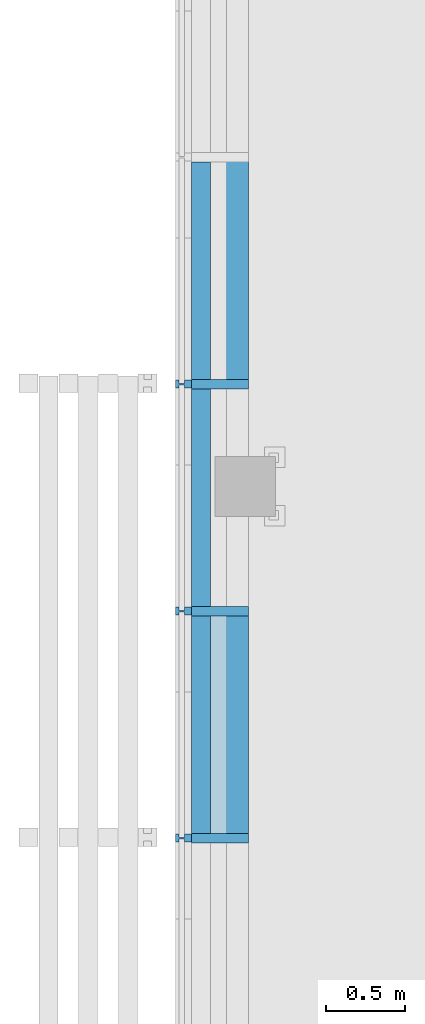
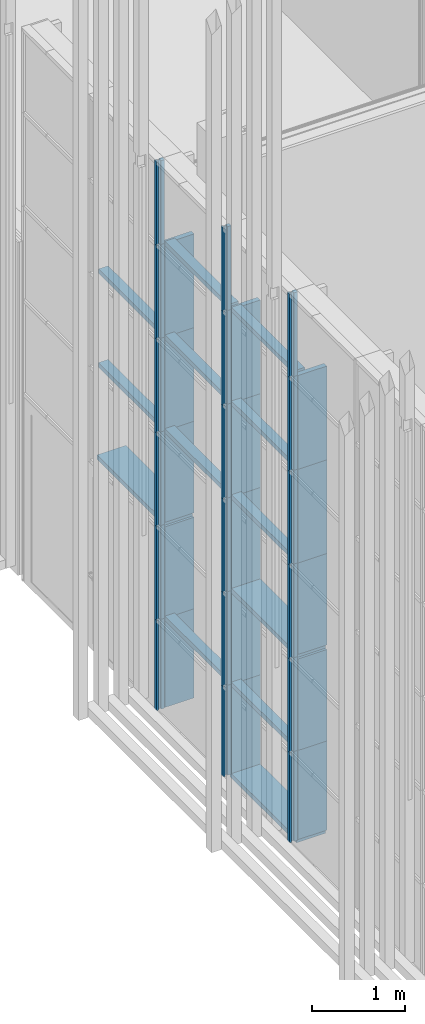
# One storey, part 23 of 260: 46 members, 2 elements without a shape of their own.
"""IFC2X3 building model written with IfcOpenShell, lengths in millimetres."""

from ifc_helpers import new_model, entity, si_unit, converted_unit, derived_unit, money_unit, direction, frame, origin_with_axes, place, context, subcontext, project, spatial, faceted_brep, source, transform, mapped, material, type_object, element, aggregate, save


model = new_model("IFC2X3")

# Units and contexts
model_context = context("Model", 3, precision=0.01, world=origin_with_axes(), true_north=direction((0.0, 1.0)))
body_context = subcontext(model_context, "Body", "Model", "MODEL_VIEW")
ifc_project = project(units=[si_unit("LENGTHUNIT", "METRE", prefix="MILLI"), si_unit("AREAUNIT", "SQUARE_METRE"), si_unit("VOLUMEUNIT", "CUBIC_METRE"), converted_unit("PLANEANGLEUNIT", "DEGREE", entity("IfcPlaneAngleMeasure", 0.0174532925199), si_unit("PLANEANGLEUNIT", "RADIAN"), dimensions=[0, 0, 0, 0, 0, 0, 0]), money_unit("EUR"), converted_unit("TIMEUNIT", "Year", entity("IfcTimeMeasure", 31556926.0), si_unit("TIMEUNIT", "SECOND"), dimensions=[0, 0, 1, 0, 0, 0, 0]), si_unit("MASSUNIT", "GRAM", prefix="KILO"), si_unit("THERMODYNAMICTEMPERATUREUNIT", "DEGREE_CELSIUS"), si_unit("LUMINOUSINTENSITYUNIT", "LUMEN"), si_unit("ENERGYUNIT", "JOULE", prefix="MEGA"), derived_unit("THERMALCONDUCTANCEUNIT", [(si_unit("POWERUNIT", "WATT"), 1), (si_unit("LENGTHUNIT", "METRE"), -1), (si_unit("THERMODYNAMICTEMPERATUREUNIT", "KELVIN"), -1)]), derived_unit("SPECIFICHEATCAPACITYUNIT", [(si_unit("ENERGYUNIT", "JOULE"), 1), (si_unit("MASSUNIT", "GRAM", prefix="KILO"), -1), (si_unit("THERMODYNAMICTEMPERATUREUNIT", "KELVIN"), -1)]), derived_unit("MASSDENSITYUNIT", [(si_unit("MASSUNIT", "GRAM", prefix="KILO"), 1), (si_unit("VOLUMEUNIT", "CUBIC_METRE"), -1)])], contexts=[model_context])

# Site, building, storey
site_placement = place(None, origin_with_axes())
site = spatial("IfcSite", under=ifc_project, at=site_placement, Name="Kolde pst 67a", CompositionType="ELEMENT")
building_placement = place(site_placement, origin_with_axes())
building = spatial("IfcBuilding", under=site, at=building_placement, Name="Riigigümnaasium", CompositionType="ELEMENT")
storey_placement = place(building_placement, origin_with_axes())
storey = spatial("IfcBuildingStorey", under=building, at=storey_placement, Name="1. korrus", CompositionType="ELEMENT", Elevation=0.0)

# Curtain wall, members
curtain_wall_type = type_object("IfcCurtainWallType", Name="Curtain Wall Type", PredefinedType="NOTDEFINED")
curtain_wall_1_placement = place(storey_placement, frame((47829.9854655, 8727.77020058, -0.000749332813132), z_axis=(0.0, 0.0, 1.0), x_axis=(1.0, 0.0, 0.0)))
curtain_wall_1 = element("IfcCurtainWall", 1, at=curtain_wall_1_placement, inside=storey, type_object=curtain_wall_type, Name="KLAASFASSAAD")
ifc_material_1 = material(Name="_METALL - alumiinium")
member_type_1 = type_object("IfcMemberType", Name="Mullion Frame 50 x 100", PredefinedType="MEMBER")
shared_shape_1 = source(origin_with_axes(), body_context, "Body", "Brep", [
    faceted_brep([(5.0, -16.5, 1230.00046362), (5.0, 16.5, 1230.00046362), (25.0, 16.5, 1230.00046362), (25.0, 40.0, 1230.00046362), (-25.0, 40.0, 1230.00046362), (-25.0, 16.5, 1230.00046362), (-5.0, 16.5, 1230.00046362), (-5.0, -16.5, 1230.00046362), (-25.0, -16.5, 1230.00046362), (-25.0, -60.0, 1230.00046362), (25.0, -60.0, 1230.00046362), (25.0, -16.5, 1230.00046362), (5.0, -16.5, 50.0), (5.0, 16.5, 50.0), (25.0, 16.5, 50.0), (25.0, 40.0, 50.0), (-25.0, 40.0, 50.0), (-25.0, 16.5, 50.0), (-5.0, 16.5, 50.0), (-5.0, -16.5, 50.0), (-25.0, -16.5, 50.0), (-25.0, -60.0, 50.0), (25.0, -60.0, 50.0), (25.0, -16.5, 50.0)], [[[0, 1, 2, 3, 4, 5, 6, 7, 8, 9, 10, 11]], [[0, 12, 13, 1]], [[1, 13, 14, 2]], [[14, 15, 3, 2]], [[4, 3, 15, 16]], [[17, 5, 4, 16]], [[5, 17, 18, 6]], [[7, 6, 18, 19]], [[8, 7, 19, 20]], [[8, 20, 21, 9]], [[10, 9, 21, 22]], [[11, 10, 22, 23]], [[11, 23, 12, 0]], [[13, 12, 23, 22, 21, 20, 19, 18, 17, 16, 15, 14]]]),
])
member_1_placement = place(curtain_wall_1_placement, frame((-23999.8980813, 26357.2742043, 2.49889189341e-05), z_axis=(0.0, 1.34304686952e-08, 1.0), x_axis=(-7.6476848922e-06, -0.999999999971, 1.34304686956e-08)))
member_1 = element("IfcMember", 2, at=member_1_placement, type_object=member_type_1, material=ifc_material_1, Name="RF RAAM VERT-633", ObjectType="MEMBER", context=body_context, shape_type="MappedRepresentation", body=[
    mapped(shared_shape_1, transform((0.0, 0.0, 0.0), x_axis=(-1.0, 0.0, 1.34304686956e-08), y_axis=(0.0, -1.0, 0.0), z_axis=(1.34304686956e-08, 0.0, 1.0))),
])
member_2_placement = place(curtain_wall_1_placement, frame((-23999.9090175, 24927.2742179, 2.49889189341e-05), z_axis=(0.0, 2.33953278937e-09, 1.0), x_axis=(-7.64768489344e-06, -0.999999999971, 2.33953278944e-09)))
member_2 = element("IfcMember", 3, at=member_2_placement, type_object=member_type_1, material=ifc_material_1, Name="RF RAAM VERT-638", ObjectType="MEMBER", context=body_context, shape_type="MappedRepresentation", body=[
    mapped(shared_shape_1, transform((0.0, 0.0, 0.0), x_axis=(-1.0, 0.0, 2.33953278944e-09), y_axis=(0.0, -1.0, 0.0), z_axis=(2.33953278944e-09, 0.0, 1.0))),
])
member_3_placement = place(curtain_wall_1_placement, frame((-23999.9199537, 23497.2742203, 2.49889189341e-05), z_axis=(0.0, 4.44666625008e-10, 1.0), x_axis=(-7.64768489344e-06, -0.999999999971, 4.44666625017e-10)))
member_3 = element("IfcMember", 4, at=member_3_placement, type_object=member_type_1, material=ifc_material_1, Name="RF RAAM VERT-643", ObjectType="MEMBER", context=body_context, shape_type="MappedRepresentation", body=[
    mapped(shared_shape_1, transform((0.0, 0.0, 0.0), x_axis=(-1.0, 0.0, 4.44666625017e-10), y_axis=(0.0, -1.0, 0.0), z_axis=(4.44666625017e-10, 0.0, 1.0))),
])
shared_shape_2 = source(origin_with_axes(), body_context, "Body", "Brep", [
    faceted_brep([(5.0, -16.5, 1230.0), (5.0, 16.5, 1230.0), (25.0, 16.5, 1230.0), (25.0, 40.0, 1230.0), (-25.0, 40.0, 1230.0), (-25.0, 16.5, 1230.0), (-5.0, 16.5, 1230.0), (-5.0, -16.5, 1230.0), (-25.0, -16.5, 1230.0), (-25.0, -60.0, 1230.0), (25.0, -60.0, 1230.0), (25.0, -16.5, 1230.0), (5.0, -16.5, 0.0), (5.0, 16.5, 0.0), (25.0, 16.5, 0.0), (25.0, 40.0, 0.0), (-25.0, 40.0, 0.0), (-25.0, 16.5, 0.0), (-5.0, 16.5, 0.0), (-5.0, -16.5, 0.0), (-25.0, -16.5, 0.0), (-25.0, -60.0, 0.0), (25.0, -60.0, 0.0), (25.0, -16.5, 0.0)], [[[0, 1, 2, 3, 4, 5, 6, 7, 8, 9, 10, 11]], [[0, 12, 13, 1]], [[1, 13, 14, 2]], [[14, 15, 3, 2]], [[3, 15, 16, 4]], [[17, 5, 4, 16]], [[5, 17, 18, 6]], [[7, 6, 18, 19]], [[8, 7, 19, 20]], [[8, 20, 21, 9]], [[9, 21, 22, 10]], [[11, 10, 22, 23]], [[11, 23, 12, 0]], [[13, 12, 23, 22, 21, 20, 19, 18, 17, 16, 15, 14]]]),
])
member_4_placement = place(curtain_wall_1_placement, frame((-23999.8980813, 26357.2742208, 4920.00074933), z_axis=(0.0, -1.34304766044e-08, 1.0), x_axis=(-7.6476848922e-06, -0.999999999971, -1.34304766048e-08)))
member_4 = element("IfcMember", 5, at=member_4_placement, type_object=member_type_1, material=ifc_material_1, Name="RF RAAM VERT-629", ObjectType="MEMBER", context=body_context, shape_type="MappedRepresentation", body=[
    mapped(shared_shape_2, transform((0.0, 0.0, 0.0), x_axis=(-1.0, 0.0, -1.34304766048e-08), y_axis=(0.0, -1.0, 0.0), z_axis=(-1.34304766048e-08, 0.0, 1.0))),
])
member_5_placement = place(curtain_wall_1_placement, frame((-23999.8980813, 26357.2742208, 3690.00074933), z_axis=(0.0, 0.0, 1.0), x_axis=(-7.6476848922e-06, -0.999999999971, 0.0)))
member_5 = element("IfcMember", 6, at=member_5_placement, type_object=member_type_1, material=ifc_material_1, Name="RF RAAM VERT-630", ObjectType="MEMBER", context=body_context, shape_type="MappedRepresentation", body=[
    mapped(shared_shape_2, transform((0.0, 0.0, 0.0), x_axis=(-1.0, 0.0, 0.0), y_axis=(0.0, -1.0, 0.0), z_axis=(0.0, 0.0, 1.0))),
])
member_6_placement = place(curtain_wall_1_placement, frame((-23999.8980813, 26357.2742208, 2460.00074933), z_axis=(0.0, 0.0, 1.0), x_axis=(-7.6476848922e-06, -0.999999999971, 0.0)))
member_6 = element("IfcMember", 7, at=member_6_placement, type_object=member_type_1, material=ifc_material_1, Name="RF RAAM VERT-631", ObjectType="MEMBER", context=body_context, shape_type="MappedRepresentation", body=[
    mapped(shared_shape_2, transform((0.0, 0.0, 0.0), x_axis=(-1.0, 0.0, 0.0), y_axis=(0.0, -1.0, 0.0), z_axis=(0.0, 0.0, 1.0))),
])
member_7_placement = place(curtain_wall_1_placement, frame((-23999.8980813, 26357.2742208, 1230.00074933), z_axis=(0.0, 0.0, 1.0), x_axis=(-7.6476848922e-06, -0.999999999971, 0.0)))
member_7 = element("IfcMember", 8, at=member_7_placement, type_object=member_type_1, material=ifc_material_1, Name="RF RAAM VERT-632", ObjectType="MEMBER", context=body_context, shape_type="MappedRepresentation", body=[
    mapped(shared_shape_2, transform((0.0, 0.0, 0.0), x_axis=(-1.0, 0.0, 0.0), y_axis=(0.0, -1.0, 0.0), z_axis=(0.0, 0.0, 1.0))),
])
member_8_placement = place(curtain_wall_1_placement, frame((-23999.9090175, 24927.2742208, 4920.00074933), z_axis=(0.0, -2.33953416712e-09, 1.0), x_axis=(-7.64768489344e-06, -0.999999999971, -2.33953416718e-09)))
member_8 = element("IfcMember", 9, at=member_8_placement, type_object=member_type_1, material=ifc_material_1, Name="RF RAAM VERT-634", ObjectType="MEMBER", context=body_context, shape_type="MappedRepresentation", body=[
    mapped(shared_shape_2, transform((0.0, 0.0, 0.0), x_axis=(-1.0, 0.0, -2.33953416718e-09), y_axis=(0.0, -1.0, 0.0), z_axis=(-2.33953416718e-09, 0.0, 1.0))),
])
member_9_placement = place(curtain_wall_1_placement, frame((-23999.9090175, 24927.2742208, 3690.00074933), z_axis=(0.0, 0.0, 1.0), x_axis=(-7.64768489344e-06, -0.999999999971, 0.0)))
member_9 = element("IfcMember", 10, at=member_9_placement, type_object=member_type_1, material=ifc_material_1, Name="RF RAAM VERT-635", ObjectType="MEMBER", context=body_context, shape_type="MappedRepresentation", body=[
    mapped(shared_shape_2, transform((0.0, 0.0, 0.0), x_axis=(-1.0, 0.0, 0.0), y_axis=(0.0, -1.0, 0.0), z_axis=(0.0, 0.0, 1.0))),
])
member_10_placement = place(curtain_wall_1_placement, frame((-23999.9090175, 24927.2742208, 2460.00074933), z_axis=(0.0, 0.0, 1.0), x_axis=(-7.64768489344e-06, -0.999999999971, 0.0)))
member_10 = element("IfcMember", 11, at=member_10_placement, type_object=member_type_1, material=ifc_material_1, Name="RF RAAM VERT-636", ObjectType="MEMBER", context=body_context, shape_type="MappedRepresentation", body=[
    mapped(shared_shape_2, transform((0.0, 0.0, 0.0), x_axis=(-1.0, 0.0, 0.0), y_axis=(0.0, -1.0, 0.0), z_axis=(0.0, 0.0, 1.0))),
])
member_11_placement = place(curtain_wall_1_placement, frame((-23999.9090175, 24927.2742208, 1230.00074933), z_axis=(0.0, 0.0, 1.0), x_axis=(-7.64768489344e-06, -0.999999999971, 0.0)))
member_11 = element("IfcMember", 12, at=member_11_placement, type_object=member_type_1, material=ifc_material_1, Name="RF RAAM VERT-637", ObjectType="MEMBER", context=body_context, shape_type="MappedRepresentation", body=[
    mapped(shared_shape_2, transform((0.0, 0.0, 0.0), x_axis=(-1.0, 0.0, 0.0), y_axis=(0.0, -1.0, 0.0), z_axis=(0.0, 0.0, 1.0))),
])
member_12_placement = place(curtain_wall_1_placement, frame((-23999.9199537, 23497.2742209, 4920.00074933), z_axis=(0.0, -4.44666886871e-10, 1.0), x_axis=(-7.64768489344e-06, -0.999999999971, -4.4466688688e-10)))
member_12 = element("IfcMember", 13, at=member_12_placement, type_object=member_type_1, material=ifc_material_1, Name="RF RAAM VERT-639", ObjectType="MEMBER", context=body_context, shape_type="MappedRepresentation", body=[
    mapped(shared_shape_2, transform((0.0, 0.0, 0.0), x_axis=(-1.0, 0.0, -4.4466688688e-10), y_axis=(0.0, -1.0, 0.0), z_axis=(-4.4466688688e-10, 0.0, 1.0))),
])
member_13_placement = place(curtain_wall_1_placement, frame((-23999.9199537, 23497.2742209, 3690.00074933), z_axis=(0.0, 0.0, 1.0), x_axis=(-7.64768489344e-06, -0.999999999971, 0.0)))
member_13 = element("IfcMember", 14, at=member_13_placement, type_object=member_type_1, material=ifc_material_1, Name="RF RAAM VERT-640", ObjectType="MEMBER", context=body_context, shape_type="MappedRepresentation", body=[
    mapped(shared_shape_2, transform((0.0, 0.0, 0.0), x_axis=(-1.0, 0.0, 0.0), y_axis=(0.0, -1.0, 0.0), z_axis=(0.0, 0.0, 1.0))),
])
member_14_placement = place(curtain_wall_1_placement, frame((-23999.9199537, 23497.2742209, 2460.00074933), z_axis=(0.0, 0.0, 1.0), x_axis=(-7.64768489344e-06, -0.999999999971, 0.0)))
member_14 = element("IfcMember", 15, at=member_14_placement, type_object=member_type_1, material=ifc_material_1, Name="RF RAAM VERT-641", ObjectType="MEMBER", context=body_context, shape_type="MappedRepresentation", body=[
    mapped(shared_shape_2, transform((0.0, 0.0, 0.0), x_axis=(-1.0, 0.0, 0.0), y_axis=(0.0, -1.0, 0.0), z_axis=(0.0, 0.0, 1.0))),
])
member_15_placement = place(curtain_wall_1_placement, frame((-23999.9199537, 23497.2742209, 1230.00074933), z_axis=(0.0, 0.0, 1.0), x_axis=(-7.64768489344e-06, -0.999999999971, 0.0)))
member_15 = element("IfcMember", 16, at=member_15_placement, type_object=member_type_1, material=ifc_material_1, Name="RF RAAM VERT-642", ObjectType="MEMBER", context=body_context, shape_type="MappedRepresentation", body=[
    mapped(shared_shape_2, transform((0.0, 0.0, 0.0), x_axis=(-1.0, 0.0, 0.0), y_axis=(0.0, -1.0, 0.0), z_axis=(0.0, 0.0, 1.0))),
])
shared_shape_3 = source(origin_with_axes(), body_context, "Body", "Brep", [
    faceted_brep([(5.0, -16.5, 1099.99900713), (5.0, 16.5, 1099.99900713), (25.0, 16.5, 1099.99900713), (25.0, 40.0, 1099.99900713), (-25.0, 40.0, 1099.99900713), (-25.0, 16.5, 1099.99900713), (-5.0, 16.5, 1099.99900713), (-5.0, -16.5, 1099.99900713), (-25.0, -16.5, 1099.99900713), (-25.0, -60.0, 1099.99900713), (25.0, -60.0, 1099.99900713), (25.0, -16.5, 1099.99900713), (5.0, -16.5, -4.55870452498e-07), (5.0, 16.5, -4.55870452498e-07), (25.0, 16.5, -4.55870452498e-07), (25.0, 40.0, -4.55870452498e-07), (-25.0, 40.0, -4.55870452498e-07), (-25.0, 16.5, -4.55870452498e-07), (-5.0, 16.5, -4.55870452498e-07), (-5.0, -16.5, -4.55870452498e-07), (-25.0, -16.5, -4.55870452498e-07), (-25.0, -60.0, -4.55870452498e-07), (25.0, -60.0, -4.55870452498e-07), (25.0, -16.5, -4.55870452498e-07)], [[[0, 1, 2, 3, 4, 5, 6, 7, 8, 9, 10, 11]], [[0, 12, 13, 1]], [[1, 13, 14, 2]], [[14, 15, 3, 2]], [[3, 15, 16, 4]], [[17, 5, 4, 16]], [[5, 17, 18, 6]], [[7, 6, 18, 19]], [[8, 7, 19, 20]], [[8, 20, 21, 9]], [[9, 21, 22, 10]], [[11, 10, 22, 23]], [[11, 23, 12, 0]], [[13, 12, 23, 22, 21, 20, 19, 18, 17, 16, 15, 14]]]),
])
member_16_placement = place(curtain_wall_1_placement, frame((-23999.9199537, 23497.2742203, 6150.00074933), z_axis=(0.0, 0.0, 1.0), x_axis=(-7.64768489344e-06, -0.999999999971, 0.0)))
member_16 = element("IfcMember", 17, at=member_16_placement, type_object=member_type_1, material=ifc_material_1, Name="RF RAAM VERT-114", ObjectType="MEMBER", context=body_context, shape_type="MappedRepresentation", body=[
    mapped(shared_shape_3, transform((0.0, 0.0, 0.0), x_axis=(-1.0, 0.0, 0.0), y_axis=(0.0, -1.0, 0.0), z_axis=(0.0, 0.0, 1.0))),
])
member_17_placement = place(curtain_wall_1_placement, frame((-23999.9090175, 24927.2742179, 6150.00074933), z_axis=(0.0, 0.0, 1.0), x_axis=(-7.64768489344e-06, -0.999999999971, 0.0)))
member_17 = element("IfcMember", 18, at=member_17_placement, type_object=member_type_1, material=ifc_material_1, Name="RF RAAM VERT-115", ObjectType="MEMBER", context=body_context, shape_type="MappedRepresentation", body=[
    mapped(shared_shape_3, transform((0.0, 0.0, 0.0), x_axis=(-1.0, 0.0, 0.0), y_axis=(0.0, -1.0, 0.0), z_axis=(0.0, 0.0, 1.0))),
])
member_18_placement = place(curtain_wall_1_placement, frame((-23999.8980813, 26357.2742043, 6150.00074933), z_axis=(0.0, 0.0, 1.0), x_axis=(-7.6476848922e-06, -0.999999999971, 0.0)))
member_18 = element("IfcMember", 19, at=member_18_placement, type_object=member_type_1, material=ifc_material_1, Name="RF RAAM VERT-116", ObjectType="MEMBER", context=body_context, shape_type="MappedRepresentation", body=[
    mapped(shared_shape_3, transform((0.0, 0.0, 0.0), x_axis=(-1.0, 0.0, 0.0), y_axis=(0.0, -1.0, 0.0), z_axis=(0.0, 0.0, 1.0))),
])
aggregate(curtain_wall_1, [member_4, member_5, member_6, member_7, member_1, member_8, member_9, member_10, member_11, member_2, member_12, member_13, member_14, member_15, member_3, member_16, member_17, member_18])

curtain_wall_2_placement = place(storey_placement, frame((23890.0026791, 27220.1832522, -0.000253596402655), z_axis=(0.0, 0.0, 1.0), x_axis=(1.0, 0.0, 0.0)))
curtain_wall_2 = element("IfcCurtainWall", 20, at=curtain_wall_2_placement, inside=storey, type_object=curtain_wall_type, Name="Klaasfassaadi puitkarkass")
ifc_material_2 = material(Name="_KANDETARIND - liimpuit vastavalt EK osale")
member_type_2 = type_object("IfcMemberType", Name="Transom Frame 60 x 120", PredefinedType="MEMBER")
shared_shape_4 = source(origin_with_axes(), body_context, "Body", "Brep", [
    faceted_brep([(-30.0, 0.0, 30.0), (-30.0, -120.0, 30.0), (-30.0, -120.0, 1400.0), (-30.0, 0.0, 1400.0), (30.0, 0.0, 30.0), (30.0, -120.0, 30.0), (30.0, -120.0, 1400.0), (30.0, 0.0, 1400.0)], [[[0, 1, 2, 3]], [[1, 0, 4, 5]], [[1, 5, 6, 2]], [[2, 6, 7, 3]], [[4, 0, 3, 7]], [[5, 4, 7, 6]]]),
])
member_19_placement = place(curtain_wall_2_placement, frame((2.5655207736e-05, 5005.0, 1230.0002536), z_axis=(5.12591492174e-09, 1.0, 0.0), x_axis=(0.0, 0.0, 1.0)))
member_19 = element("IfcMember", 21, at=member_19_placement, type_object=member_type_2, material=ifc_material_2, Name="RF RAAM HOR-648", ObjectType="MEMBER", context=body_context, shape_type="MappedRepresentation", body=[
    mapped(shared_shape_4, transform((0.0, 0.0, 0.0), x_axis=(-1.0, 0.0, 0.0), y_axis=(0.0, -1.0, -5.12591479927e-09), z_axis=(0.0, -5.12591479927e-09, 1.0))),
])
member_20_placement = place(curtain_wall_2_placement, frame((3.29852660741e-05, 6435.0, 1230.0002536), z_axis=(5.12591492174e-09, 1.0, 0.0), x_axis=(0.0, 0.0, 1.0)))
member_20 = element("IfcMember", 22, at=member_20_placement, type_object=member_type_2, material=ifc_material_2, Name="RF RAAM HOR-648", ObjectType="MEMBER", context=body_context, shape_type="MappedRepresentation", body=[
    mapped(shared_shape_4, transform((0.0, 0.0, 0.0), x_axis=(-1.0, 0.0, 0.0), y_axis=(0.0, -1.0, -5.12591479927e-09), z_axis=(0.0, -5.12591479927e-09, 1.0))),
])
member_21_placement = place(curtain_wall_2_placement, frame((2.5655207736e-05, 5005.0, 3690.0002536), z_axis=(5.12591492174e-09, 1.0, 0.0), x_axis=(0.0, 0.0, 1.0)))
member_21 = element("IfcMember", 23, at=member_21_placement, type_object=member_type_2, material=ifc_material_2, Name="RF RAAM HOR-648", ObjectType="MEMBER", context=body_context, shape_type="MappedRepresentation", body=[
    mapped(shared_shape_4, transform((0.0, 0.0, 0.0), x_axis=(-1.0, 0.0, 0.0), y_axis=(0.0, -1.0, -5.12591479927e-09), z_axis=(0.0, -5.12591479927e-09, 1.0))),
])
member_22_placement = place(curtain_wall_2_placement, frame((3.29852660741e-05, 6435.0, 3690.0002536), z_axis=(5.12591492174e-09, 1.0, 0.0), x_axis=(0.0, 0.0, 1.0)))
member_22 = element("IfcMember", 24, at=member_22_placement, type_object=member_type_2, material=ifc_material_2, Name="RF RAAM HOR-648", ObjectType="MEMBER", context=body_context, shape_type="MappedRepresentation", body=[
    mapped(shared_shape_4, transform((0.0, 0.0, 0.0), x_axis=(-1.0, 0.0, 0.0), y_axis=(0.0, -1.0, -5.12591479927e-09), z_axis=(0.0, -5.12591479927e-09, 1.0))),
])
member_23_placement = place(curtain_wall_2_placement, frame((4.03153244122e-05, 7865.0, 3690.0002536), z_axis=(5.12591740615e-09, 1.0, 0.0), x_axis=(0.0, 0.0, 1.0)))
member_23 = element("IfcMember", 25, at=member_23_placement, type_object=member_type_2, material=ifc_material_2, Name="RF RAAM HOR-648", ObjectType="MEMBER", context=body_context, shape_type="MappedRepresentation", body=[
    mapped(shared_shape_4, transform((0.0, 0.0, 0.0), x_axis=(-1.0, 0.0, 0.0), y_axis=(0.0, -1.0, -5.12591728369e-09), z_axis=(0.0, -5.12591728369e-09, 1.0))),
])
member_24_placement = place(curtain_wall_2_placement, frame((2.5655207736e-05, 5005.0, 4920.0002536), z_axis=(5.12591492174e-09, 1.0, 0.0), x_axis=(0.0, 0.0, 1.0)))
member_24 = element("IfcMember", 26, at=member_24_placement, type_object=member_type_2, material=ifc_material_2, Name="RF RAAM HOR-648", ObjectType="MEMBER", context=body_context, shape_type="MappedRepresentation", body=[
    mapped(shared_shape_4, transform((0.0, 0.0, 0.0), x_axis=(-1.0, 0.0, 0.0), y_axis=(0.0, -1.0, -5.12591479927e-09), z_axis=(0.0, -5.12591479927e-09, 1.0))),
])
member_25_placement = place(curtain_wall_2_placement, frame((3.29852660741e-05, 6435.0, 4920.0002536), z_axis=(5.12591492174e-09, 1.0, 0.0), x_axis=(0.0, 0.0, 1.0)))
member_25 = element("IfcMember", 27, at=member_25_placement, type_object=member_type_2, material=ifc_material_2, Name="RF RAAM HOR-648", ObjectType="MEMBER", context=body_context, shape_type="MappedRepresentation", body=[
    mapped(shared_shape_4, transform((0.0, 0.0, 0.0), x_axis=(-1.0, 0.0, 0.0), y_axis=(0.0, -1.0, -5.12591479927e-09), z_axis=(0.0, -5.12591479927e-09, 1.0))),
])
member_26_placement = place(curtain_wall_2_placement, frame((4.03153244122e-05, 7865.0, 4920.0002536), z_axis=(5.12591740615e-09, 1.0, 0.0), x_axis=(0.0, 0.0, 1.0)))
member_26 = element("IfcMember", 28, at=member_26_placement, type_object=member_type_2, material=ifc_material_2, Name="RF RAAM HOR-648", ObjectType="MEMBER", context=body_context, shape_type="MappedRepresentation", body=[
    mapped(shared_shape_4, transform((0.0, 0.0, 0.0), x_axis=(-1.0, 0.0, 0.0), y_axis=(0.0, -1.0, -5.12591728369e-09), z_axis=(0.0, -5.12591728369e-09, 1.0))),
])
member_27_placement = place(curtain_wall_2_placement, frame((2.5655207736e-05, 5005.0, 6150.0002536), z_axis=(5.12591492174e-09, 1.0, 0.0), x_axis=(0.0, 0.0, 1.0)))
member_27 = element("IfcMember", 29, at=member_27_placement, type_object=member_type_2, material=ifc_material_2, Name="RF RAAM HOR-648", ObjectType="MEMBER", context=body_context, shape_type="MappedRepresentation", body=[
    mapped(shared_shape_4, transform((0.0, 0.0, 0.0), x_axis=(-1.0, 0.0, 0.0), y_axis=(0.0, -1.0, -5.12591479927e-09), z_axis=(0.0, -5.12591479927e-09, 1.0))),
])
member_28_placement = place(curtain_wall_2_placement, frame((3.29852660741e-05, 6435.0, 6150.0002536), z_axis=(5.12591492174e-09, 1.0, 0.0), x_axis=(0.0, 0.0, 1.0)))
member_28 = element("IfcMember", 30, at=member_28_placement, type_object=member_type_2, material=ifc_material_2, Name="RF RAAM HOR-648", ObjectType="MEMBER", context=body_context, shape_type="MappedRepresentation", body=[
    mapped(shared_shape_4, transform((0.0, 0.0, 0.0), x_axis=(-1.0, 0.0, 0.0), y_axis=(0.0, -1.0, -5.12591479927e-09), z_axis=(0.0, -5.12591479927e-09, 1.0))),
])
member_type_3 = type_object("IfcMemberType", Name="Mullion Frame 60 x 360", PredefinedType="MEMBER")
shared_shape_5 = source(origin_with_axes(), body_context, "Body", "Brep", [
    faceted_brep([(-30.0, 0.0, 60.0), (-30.0, -360.0, 60.0), (-30.0, -360.0, 1230.0002536), (-30.0, 0.0, 1230.0002536), (30.0, 0.0, 60.0), (30.0, -360.0, 60.0), (30.0, -360.0, 1230.0002536), (30.0, 0.0, 1230.0002536)], [[[0, 1, 2, 3]], [[1, 0, 4, 5]], [[1, 5, 6, 2]], [[2, 6, 7, 3]], [[4, 0, 3, 7]], [[5, 4, 7, 6]]]),
])
member_29_placement = place(curtain_wall_2_placement, frame((2.5655207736e-05, 5005.0, 0.0), z_axis=(0.0, 0.0, 1.0), x_axis=(-5.12591492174e-09, -1.0, 0.0)))
member_29 = element("IfcMember", 31, at=member_29_placement, type_object=member_type_3, material=ifc_material_2, Name="RF RAAM VERT-837", ObjectType="MEMBER", context=body_context, shape_type="MappedRepresentation", body=[
    mapped(shared_shape_5, transform((0.0, 0.0, 0.0), x_axis=(-1.0, 0.0, 0.0), y_axis=(0.0, -1.0, 0.0), z_axis=(0.0, 0.0, 1.0))),
])
member_30_placement = place(curtain_wall_2_placement, frame((3.29852660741e-05, 6435.0, 0.0), z_axis=(0.0, 0.0, 1.0), x_axis=(-5.12591492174e-09, -1.0, 0.0)))
member_30 = element("IfcMember", 32, at=member_30_placement, type_object=member_type_3, material=ifc_material_2, Name="RF RAAM VERT-837", ObjectType="MEMBER", context=body_context, shape_type="MappedRepresentation", body=[
    mapped(shared_shape_5, transform((0.0, 0.0, 0.0), x_axis=(-1.0, 0.0, 0.0), y_axis=(0.0, -1.0, 0.0), z_axis=(0.0, 0.0, 1.0))),
])
member_31_placement = place(curtain_wall_2_placement, frame((4.03153244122e-05, 7865.0, 0.0), z_axis=(0.0, 0.0, 1.0), x_axis=(-5.12591616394e-09, -1.0, 0.0)))
member_31 = element("IfcMember", 33, at=member_31_placement, type_object=member_type_3, material=ifc_material_2, Name="RF RAAM VERT-837", ObjectType="MEMBER", context=body_context, shape_type="MappedRepresentation", body=[
    mapped(shared_shape_5, transform((0.0, 0.0, 0.0), x_axis=(-1.0, 0.0, 0.0), y_axis=(0.0, -1.0, 0.0), z_axis=(0.0, 0.0, 1.0))),
])
shared_shape_6 = source(origin_with_axes(), body_context, "Body", "Brep", [
    faceted_brep([(-30.0, -360.0, 0.0), (-30.0, -360.0, 1230.0), (-30.0, 0.0, 1230.0), (-30.0, 0.0, 0.0), (30.0, -360.0, 0.0), (30.0, -360.0, 1230.0), (30.0, 0.0, 1230.0), (30.0, 0.0, 0.0)], [[[0, 1, 2, 3]], [[4, 5, 1, 0]], [[1, 5, 6, 2]], [[3, 2, 6, 7]], [[0, 3, 7, 4]], [[7, 6, 5, 4]]]),
])
member_32_placement = place(curtain_wall_2_placement, frame((2.5655207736e-05, 5005.0, 3690.0002536), z_axis=(0.0, 0.0, 1.0), x_axis=(-5.12591492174e-09, -1.0, 0.0)))
member_32 = element("IfcMember", 34, at=member_32_placement, type_object=member_type_3, material=ifc_material_2, Name="RF RAAM VERT-837", ObjectType="MEMBER", context=body_context, shape_type="MappedRepresentation", body=[
    mapped(shared_shape_6, transform((0.0, 0.0, 0.0), x_axis=(-1.0, 0.0, 0.0), y_axis=(0.0, -1.0, 0.0), z_axis=(0.0, 0.0, 1.0))),
])
member_33_placement = place(curtain_wall_2_placement, frame((2.5655207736e-05, 5005.0, 4920.0002536), z_axis=(0.0, 0.0, 1.0), x_axis=(-5.12591492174e-09, -1.0, 0.0)))
member_33 = element("IfcMember", 35, at=member_33_placement, type_object=member_type_3, material=ifc_material_2, Name="RF RAAM VERT-837", ObjectType="MEMBER", context=body_context, shape_type="MappedRepresentation", body=[
    mapped(shared_shape_6, transform((0.0, 0.0, 0.0), x_axis=(-1.0, 0.0, 0.0), y_axis=(0.0, -1.0, 0.0), z_axis=(0.0, 0.0, 1.0))),
])
member_34_placement = place(curtain_wall_2_placement, frame((3.29852660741e-05, 6435.0, 3690.0002536), z_axis=(0.0, 0.0, 1.0), x_axis=(-5.12591492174e-09, -1.0, 0.0)))
member_34 = element("IfcMember", 36, at=member_34_placement, type_object=member_type_3, material=ifc_material_2, Name="RF RAAM VERT-837", ObjectType="MEMBER", context=body_context, shape_type="MappedRepresentation", body=[
    mapped(shared_shape_6, transform((0.0, 0.0, 0.0), x_axis=(-1.0, 0.0, 0.0), y_axis=(0.0, -1.0, 0.0), z_axis=(0.0, 0.0, 1.0))),
])
member_35_placement = place(curtain_wall_2_placement, frame((3.29852660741e-05, 6435.0, 4920.0002536), z_axis=(0.0, 0.0, 1.0), x_axis=(-5.12591492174e-09, -1.0, 0.0)))
member_35 = element("IfcMember", 37, at=member_35_placement, type_object=member_type_3, material=ifc_material_2, Name="RF RAAM VERT-837", ObjectType="MEMBER", context=body_context, shape_type="MappedRepresentation", body=[
    mapped(shared_shape_6, transform((0.0, 0.0, 0.0), x_axis=(-1.0, 0.0, 0.0), y_axis=(0.0, -1.0, 0.0), z_axis=(0.0, 0.0, 1.0))),
])
member_36_placement = place(curtain_wall_2_placement, frame((4.03153244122e-05, 7865.0, 3690.0002536), z_axis=(0.0, 0.0, 1.0), x_axis=(-5.12591616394e-09, -1.0, 0.0)))
member_36 = element("IfcMember", 38, at=member_36_placement, type_object=member_type_3, material=ifc_material_2, Name="RF RAAM VERT-837", ObjectType="MEMBER", context=body_context, shape_type="MappedRepresentation", body=[
    mapped(shared_shape_6, transform((0.0, 0.0, 0.0), x_axis=(-1.0, 0.0, 0.0), y_axis=(0.0, -1.0, 0.0), z_axis=(0.0, 0.0, 1.0))),
])
member_37_placement = place(curtain_wall_2_placement, frame((4.03153244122e-05, 7865.0, 4920.0002536), z_axis=(0.0, 0.0, 1.0), x_axis=(-5.12591616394e-09, -1.0, 0.0)))
member_37 = element("IfcMember", 39, at=member_37_placement, type_object=member_type_3, material=ifc_material_2, Name="RF RAAM VERT-837", ObjectType="MEMBER", context=body_context, shape_type="MappedRepresentation", body=[
    mapped(shared_shape_6, transform((0.0, 0.0, 0.0), x_axis=(-1.0, 0.0, 0.0), y_axis=(0.0, -1.0, 0.0), z_axis=(0.0, 0.0, 1.0))),
])
shared_shape_7 = source(origin_with_axes(), body_context, "Body", "Brep", [
    faceted_brep([(-30.0, -360.0, 0.0), (-30.0, -360.0, 1200.0), (-30.0, 0.0, 1200.0), (-30.0, 0.0, 0.0), (30.0, -360.0, 0.0), (30.0, -360.0, 1200.0), (30.0, 0.0, 1200.0), (30.0, 0.0, 0.0)], [[[0, 1, 2, 3]], [[4, 5, 1, 0]], [[1, 5, 6, 2]], [[3, 2, 6, 7]], [[0, 3, 7, 4]], [[7, 6, 5, 4]]]),
])
member_38_placement = place(curtain_wall_2_placement, frame((2.5655207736e-05, 5005.0, 1230.0002536), z_axis=(0.0, 0.0, 1.0), x_axis=(-5.12591492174e-09, -1.0, 0.0)))
member_38 = element("IfcMember", 40, at=member_38_placement, type_object=member_type_3, material=ifc_material_2, Name="RF RAAM VERT-837", ObjectType="MEMBER", context=body_context, shape_type="MappedRepresentation", body=[
    mapped(shared_shape_7, transform((0.0, 0.0, 0.0), x_axis=(-1.0, 0.0, 0.0), y_axis=(0.0, -1.0, 0.0), z_axis=(0.0, 0.0, 1.0))),
])
member_39_placement = place(curtain_wall_2_placement, frame((3.29852660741e-05, 6435.0, 1230.0002536), z_axis=(0.0, 0.0, 1.0), x_axis=(-5.12591492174e-09, -1.0, 0.0)))
member_39 = element("IfcMember", 41, at=member_39_placement, type_object=member_type_3, material=ifc_material_2, Name="RF RAAM VERT-837", ObjectType="MEMBER", context=body_context, shape_type="MappedRepresentation", body=[
    mapped(shared_shape_7, transform((0.0, 0.0, 0.0), x_axis=(-1.0, 0.0, 0.0), y_axis=(0.0, -1.0, 0.0), z_axis=(0.0, 0.0, 1.0))),
])
member_40_placement = place(curtain_wall_2_placement, frame((4.03153244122e-05, 7865.0, 1230.0002536), z_axis=(0.0, 0.0, 1.0), x_axis=(-5.12591616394e-09, -1.0, 0.0)))
member_40 = element("IfcMember", 42, at=member_40_placement, type_object=member_type_3, material=ifc_material_2, Name="RF RAAM VERT-837", ObjectType="MEMBER", context=body_context, shape_type="MappedRepresentation", body=[
    mapped(shared_shape_7, transform((0.0, 0.0, 0.0), x_axis=(-1.0, 0.0, 0.0), y_axis=(0.0, -1.0, 0.0), z_axis=(0.0, 0.0, 1.0))),
])
shared_shape_8 = source(origin_with_axes(), body_context, "Body", "Brep", [
    faceted_brep([(-30.0, 0.0, 30.0), (-30.0, -360.0, 30.0), (-30.0, -360.0, 1230.0), (-30.0, 0.0, 1230.0), (30.0, 0.0, 30.0), (30.0, -360.0, 30.0), (30.0, -360.0, 1230.0), (30.0, 0.0, 1230.0)], [[[0, 1, 2, 3]], [[1, 0, 4, 5]], [[1, 5, 6, 2]], [[2, 6, 7, 3]], [[4, 0, 3, 7]], [[5, 4, 7, 6]]]),
])
member_41_placement = place(curtain_wall_2_placement, frame((2.5655207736e-05, 5005.0, 2460.0002536), z_axis=(0.0, 0.0, 1.0), x_axis=(-5.12591492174e-09, -1.0, 0.0)))
member_41 = element("IfcMember", 43, at=member_41_placement, type_object=member_type_3, material=ifc_material_2, Name="RF RAAM VERT-837", ObjectType="MEMBER", context=body_context, shape_type="MappedRepresentation", body=[
    mapped(shared_shape_8, transform((0.0, 0.0, 0.0), x_axis=(-1.0, 0.0, 0.0), y_axis=(0.0, -1.0, 0.0), z_axis=(0.0, 0.0, 1.0))),
])
member_42_placement = place(curtain_wall_2_placement, frame((3.29852660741e-05, 6435.0, 2460.0002536), z_axis=(0.0, 0.0, 1.0), x_axis=(-5.12591492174e-09, -1.0, 0.0)))
member_42 = element("IfcMember", 44, at=member_42_placement, type_object=member_type_3, material=ifc_material_2, Name="RF RAAM VERT-837", ObjectType="MEMBER", context=body_context, shape_type="MappedRepresentation", body=[
    mapped(shared_shape_8, transform((0.0, 0.0, 0.0), x_axis=(-1.0, 0.0, 0.0), y_axis=(0.0, -1.0, 0.0), z_axis=(0.0, 0.0, 1.0))),
])
member_43_placement = place(curtain_wall_2_placement, frame((4.03153244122e-05, 7865.0, 2460.0002536), z_axis=(0.0, 0.0, 1.0), x_axis=(-5.12591616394e-09, -1.0, 0.0)))
member_43 = element("IfcMember", 45, at=member_43_placement, type_object=member_type_3, material=ifc_material_2, Name="RF RAAM VERT-837", ObjectType="MEMBER", context=body_context, shape_type="MappedRepresentation", body=[
    mapped(shared_shape_8, transform((0.0, 0.0, 0.0), x_axis=(-1.0, 0.0, 0.0), y_axis=(0.0, -1.0, 0.0), z_axis=(0.0, 0.0, 1.0))),
])
member_type_4 = type_object("IfcMemberType", Name="Boundary Frame 60 x 360", PredefinedType="MEMBER")
shared_shape_9 = source(origin_with_axes(), body_context, "Body", "Brep", [
    faceted_brep([(-60.0, -360.0, 0.0), (-60.0, -360.0, 1430.0), (-60.0, 0.0, 1430.0), (-60.0, 0.0, 0.0), (0.0, -360.0, 0.0), (0.0, -360.0, 1430.0), (0.0, 0.0, 1430.0), (0.0, 0.0, 0.0)], [[[0, 1, 2, 3]], [[4, 5, 1, 0]], [[1, 5, 6, 2]], [[3, 2, 6, 7]], [[0, 3, 7, 4]], [[7, 6, 5, 4]]]),
])
member_44_placement = place(curtain_wall_2_placement, frame((2.5655207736e-05, 5005.0, 0.0), z_axis=(5.12591492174e-09, 1.0, 0.0), x_axis=(0.0, 0.0, 1.0)))
member_44 = element("IfcMember", 46, at=member_44_placement, type_object=member_type_4, material=ifc_material_2, Name="RF RAAM SERV-715", ObjectType="MEMBER", context=body_context, shape_type="MappedRepresentation", body=[
    mapped(shared_shape_9, transform((0.0, 0.0, 0.0), x_axis=(-1.0, 0.0, 0.0), y_axis=(0.0, -1.0, -5.12591479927e-09), z_axis=(0.0, -5.12591479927e-09, 1.0))),
])
shared_shape_10 = source(origin_with_axes(), body_context, "Body", "Brep", [
    faceted_brep([(-30.0, -360.0, 0.0), (-30.0, -360.0, 1430.0), (-30.0, 0.0, 1430.0), (-30.0, 0.0, 0.0), (30.0, -360.0, 0.0), (30.0, -360.0, 1430.0), (30.0, 0.0, 1430.0), (30.0, 0.0, 0.0)], [[[0, 1, 2, 3]], [[4, 5, 1, 0]], [[1, 5, 6, 2]], [[3, 2, 6, 7]], [[0, 3, 7, 4]], [[7, 6, 5, 4]]]),
])
member_45_placement = place(curtain_wall_2_placement, frame((2.5655207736e-05, 5005.0, 2460.0002536), z_axis=(5.12591492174e-09, 1.0, 0.0), x_axis=(0.0, 0.0, 1.0)))
member_45 = element("IfcMember", 47, at=member_45_placement, type_object=member_type_4, material=ifc_material_2, Name="RF RAAM HOR-648", ObjectType="MEMBER", context=body_context, shape_type="MappedRepresentation", body=[
    mapped(shared_shape_10, transform((0.0, 0.0, 0.0), x_axis=(-1.0, 0.0, 0.0), y_axis=(0.0, -1.0, -5.12591479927e-09), z_axis=(0.0, -5.12591479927e-09, 1.0))),
])
member_46_placement = place(curtain_wall_2_placement, frame((4.03153244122e-05, 7865.0, 2460.0002536), z_axis=(5.12591740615e-09, 1.0, 0.0), x_axis=(0.0, 0.0, 1.0)))
member_46 = element("IfcMember", 48, at=member_46_placement, type_object=member_type_4, material=ifc_material_2, Name="RF RAAM SERV-612", ObjectType="MEMBER", context=body_context, shape_type="MappedRepresentation", body=[
    mapped(shared_shape_10, transform((0.0, 0.0, 0.0), x_axis=(-1.0, 0.0, 0.0), y_axis=(0.0, -1.0, -5.12591728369e-09), z_axis=(0.0, -5.12591728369e-09, 1.0))),
])
aggregate(curtain_wall_2, [member_29, member_38, member_41, member_32, member_33, member_30, member_39, member_42, member_34, member_35, member_31, member_40, member_43, member_36, member_37, member_44, member_19, member_20, member_45, member_46, member_21, member_22, member_23, member_24, member_25, member_26, member_27, member_28])

save(model, "model.ifc")
